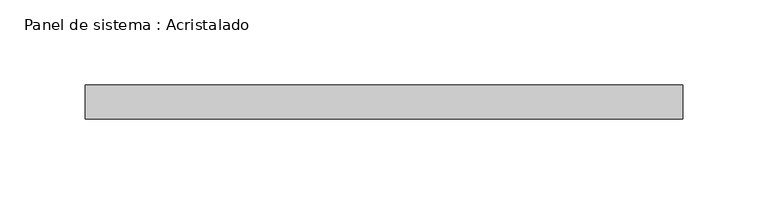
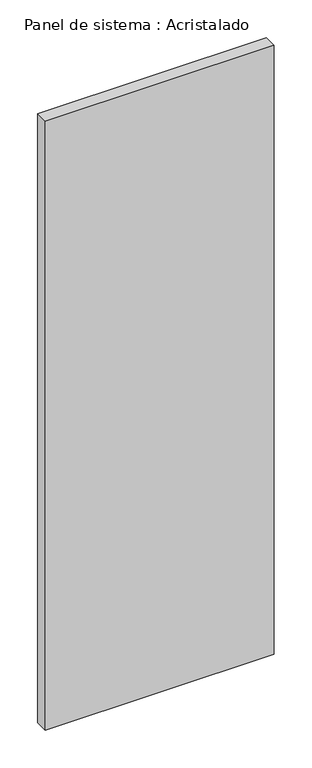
"""IFC4 building model written with IfcOpenShell, lengths in millimetres: plate geometry, Panel de sistema : Acristalado."""

from ifc_helpers import new_model, si_unit, origin, origin_with_axes, place, context, project, spatial, polyline, outline, extrude, source, transform, mapped, element, save


def panel_de_sistema_acristalado_9585265c(model_context):
    return source(origin(), model_context, "Body", "SweptSolid", [
        extrude(outline(polyline([(175.0, -10.0), (-175.0, -10.0), (-175.0, 10.0), (175.0, 10.0), (175.0, -10.0)])), origin_with_axes(), (0.0, 0.0, 1.0), 984.4802187),
    ])


if __name__ == "__main__":
    model = new_model("IFC4")
    model_context = context("Model", 3, world=origin())
    ifc_project = project(units=[si_unit("LENGTHUNIT", "METRE", prefix="MILLI")], contexts=[model_context])
    site = spatial("IfcSite", under=ifc_project)
    building = spatial("IfcBuilding", under=site)
    placement = place(None, origin())
    panel_de_sistema_acristalado_shape = panel_de_sistema_acristalado_9585265c(model_context)
    element("IfcPlate", 1, ObjectType="Panel de sistema : Acristalado", at=placement, inside=building, context=model_context, shape_type="MappedRepresentation", body=[
        mapped(panel_de_sistema_acristalado_shape, transform((0.0, 0.0, 0.0), x_axis=(1.0, 0.0, 0.0), y_axis=(0.0, 1.0, 0.0), z_axis=(0.0, 0.0, 1.0))),
    ])
    save(model, "model.ifc")
